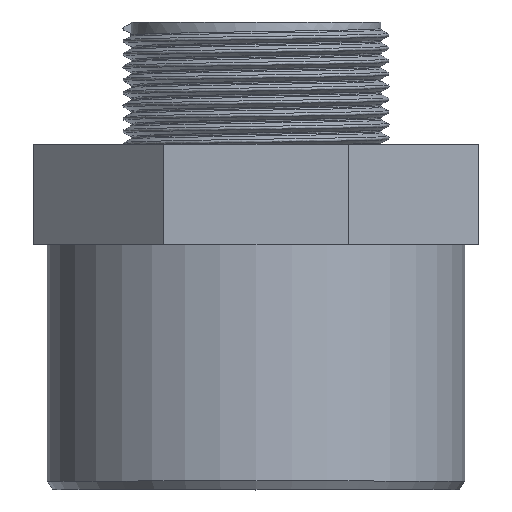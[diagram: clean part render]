
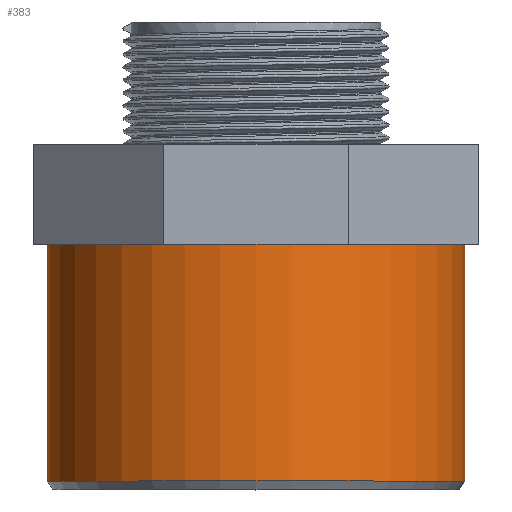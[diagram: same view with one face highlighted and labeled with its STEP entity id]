
A CAD part, top view. The second image highlights one B-rep face of the part: STEP entity #383.
In plain terms, the highlighted cylindrical face has radius 37.5 mm (diameter 75 mm), a full revolution.
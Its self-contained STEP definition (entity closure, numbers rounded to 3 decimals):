
#100=CYLINDRICAL_SURFACE('',#413,37.5);
#106=FACE_BOUND('',#145,.T.);
#117=FACE_OUTER_BOUND('',#144,.T.);
#144=EDGE_LOOP('',(#281));
#145=EDGE_LOOP('',(#282));
#179=CIRCLE('',#411,37.5);
#181=CIRCLE('',#414,37.5);
#192=VERTEX_POINT('',#543);
#194=VERTEX_POINT('',#548);
#228=EDGE_CURVE('',#192,#192,#179,.T.);
#230=EDGE_CURVE('',#194,#194,#181,.T.);
#281=ORIENTED_EDGE('',*,*,#230,.F.);
#282=ORIENTED_EDGE('',*,*,#228,.F.);
#383=ADVANCED_FACE('',(#117,#106),#100,.T.);
#411=AXIS2_PLACEMENT_3D('',#544,#448,#449);
#413=AXIS2_PLACEMENT_3D('',#547,#452,#453);
#414=AXIS2_PLACEMENT_3D('',#549,#454,#455);
#448=DIRECTION('center_axis',(0.,-1.,0.));
#449=DIRECTION('ref_axis',(-1.,0.,0.));
#452=DIRECTION('center_axis',(0.,-1.,0.));
#453=DIRECTION('ref_axis',(-1.,0.,0.));
#454=DIRECTION('center_axis',(0.,1.,0.));
#455=DIRECTION('ref_axis',(-1.,0.,0.));
#543=CARTESIAN_POINT('',(37.5,-51.5,0.));
#544=CARTESIAN_POINT('Origin',(0.,-51.5,0.));
#547=CARTESIAN_POINT('Origin',(0.,-9.,0.));
#548=CARTESIAN_POINT('',(37.5,-9.,0.));
#549=CARTESIAN_POINT('Origin',(0.,-9.,0.));
